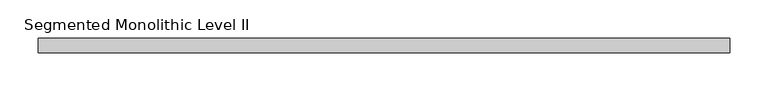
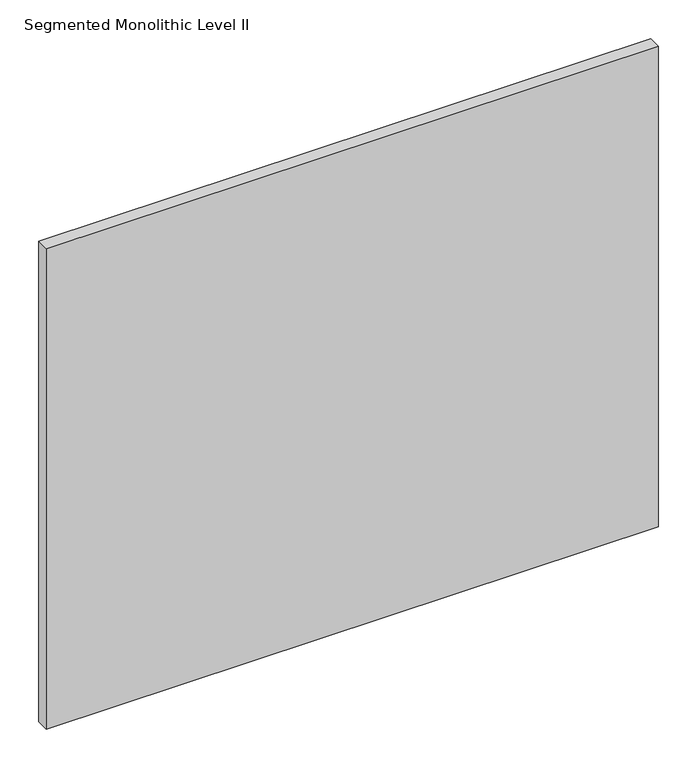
"""IFC4 building model written with IfcOpenShell, lengths in millimetres: proxy geometry, Panel-Fascia-Teknion-Altos-Standard : Segmented Monolithic Level II."""

from ifc_helpers import new_model, si_unit, frame, origin, place, context, project, spatial, polyline, outline, extrude, source, transform, mapped, element, save


def segmented_monolithic_level_ii_77ebe4eb(model_context):
    return source(origin(), model_context, "Body", "SweptSolid", [
        extrude(outline(polyline([(454.025, 9.525), (454.025, -9.525), (-454.025, -9.525), (-454.025, 9.525), (454.025, 9.525)])), frame((0.0, 0.0, 3.175), z_axis=(0.0, 0.0, 1.0), x_axis=(1.0, 0.0, 0.0)), (0.0, 0.0, 1.0), 753.618),
    ])


if __name__ == "__main__":
    model = new_model("IFC4")
    model_context = context("Model", 3, world=origin())
    ifc_project = project(units=[si_unit("LENGTHUNIT", "METRE", prefix="MILLI")], contexts=[model_context])
    site = spatial("IfcSite", under=ifc_project)
    building = spatial("IfcBuilding", under=site)
    placement = place(None, origin())
    segmented_monolithic_level_ii_shape = segmented_monolithic_level_ii_77ebe4eb(model_context)
    element("IfcBuildingElementProxy", 1, Name="Panel-Fascia-Teknion-Altos-Standard : Segmented Monolithic Level II", ObjectType="Panel-Fascia-Teknion-Altos-Standard : Segmented Monolithic Level II", at=placement, inside=building, context=model_context, shape_type="MappedRepresentation", body=[
        mapped(segmented_monolithic_level_ii_shape, transform((0.0, 0.0, 0.0), x_axis=(1.0, 0.0, 0.0), y_axis=(0.0, 1.0, 0.0), z_axis=(0.0, 0.0, 1.0))),
    ])
    save(model, "model.ifc")
